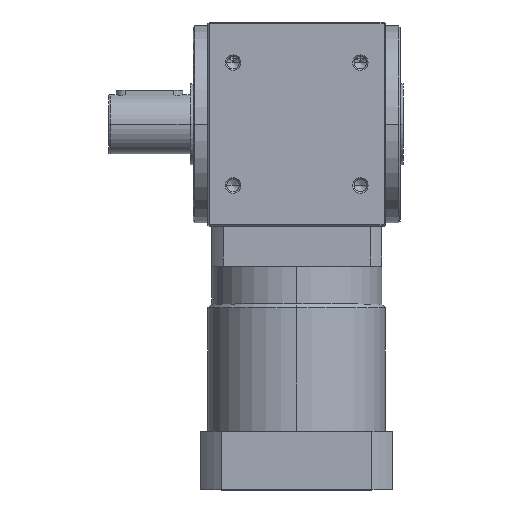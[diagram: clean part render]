
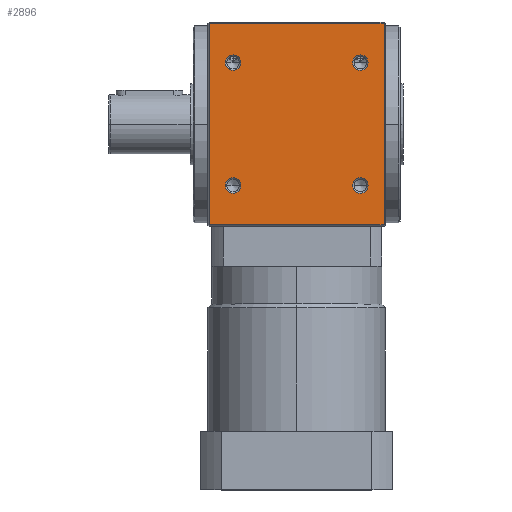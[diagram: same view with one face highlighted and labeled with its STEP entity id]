
A CAD part, top view. The second image highlights one B-rep face of the part: STEP entity #2896.
In plain terms, the highlighted planar face has unit normal (0, 0, 1).
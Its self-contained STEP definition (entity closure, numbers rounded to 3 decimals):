
#83 = ORIENTED_EDGE ( 'NONE', *, *, #7035, .F. ) ;
#206 = CARTESIAN_POINT ( 'NONE',  ( 59., 68., 69. ) ) ;
#209 = ORIENTED_EDGE ( 'NONE', *, *, #4239, .F. ) ;
#273 = VERTEX_POINT ( 'NONE', #206 ) ;
#361 = AXIS2_PLACEMENT_3D ( 'NONE', #3452, #8529, #4149 ) ;
#483 = VECTOR ( 'NONE', #2120, 1000. ) ;
#659 = CARTESIAN_POINT ( 'NONE',  ( -43., 41.5, 69. ) ) ;
#855 = EDGE_LOOP ( 'NONE', ( #8670, #3934 ) ) ;
#928 = DIRECTION ( 'NONE',  ( 0., 0., 1. ) ) ;
#942 = EDGE_LOOP ( 'NONE', ( #4427, #4838 ) ) ;
#1214 = AXIS2_PLACEMENT_3D ( 'NONE', #8866, #4498, #9610 ) ;
#1263 = DIRECTION ( 'NONE',  ( 0., 0., -1. ) ) ;
#1413 = EDGE_LOOP ( 'NONE', ( #4217, #1695 ) ) ;
#1444 = FACE_BOUND ( 'NONE', #6286, .T. ) ;
#1483 = DIRECTION ( 'NONE',  ( 1., 0., 0. ) ) ;
#1494 = AXIS2_PLACEMENT_3D ( 'NONE', #6591, #2283, #7350 ) ;
#1517 = DIRECTION ( 'NONE',  ( 0., -1., 0. ) ) ;
#1597 = VERTEX_POINT ( 'NONE', #2827 ) ;
#1632 = AXIS2_PLACEMENT_3D ( 'NONE', #659, #5826, #1483 ) ;
#1680 = AXIS2_PLACEMENT_3D ( 'NONE', #7321, #3010, #8072 ) ;
#1695 = ORIENTED_EDGE ( 'NONE', *, *, #7542, .F. ) ;
#1714 = CARTESIAN_POINT ( 'NONE',  ( -48.25, -41.5, 69. ) ) ;
#1810 = CIRCLE ( 'NONE', #2414, 5.25 ) ;
#2093 = CARTESIAN_POINT ( 'NONE',  ( -59., 69., 69. ) ) ;
#2120 = DIRECTION ( 'NONE',  ( 0., 1., 0. ) ) ;
#2267 = AXIS2_PLACEMENT_3D ( 'NONE', #6880, #2584, #7641 ) ;
#2283 = DIRECTION ( 'NONE',  ( 0., 0., 1. ) ) ;
#2369 = VERTEX_POINT ( 'NONE', #8748 ) ;
#2378 = ORIENTED_EDGE ( 'NONE', *, *, #4171, .F. ) ;
#2414 = AXIS2_PLACEMENT_3D ( 'NONE', #3828, #8914, #4546 ) ;
#2449 = CIRCLE ( 'NONE', #1680, 5.25 ) ;
#2584 = DIRECTION ( 'NONE',  ( 0., 0., 1. ) ) ;
#2689 = LINE ( 'NONE', #8043, #8260 ) ;
#2827 = CARTESIAN_POINT ( 'NONE',  ( -37.75, 41.5, 69. ) ) ;
#2896 = ADVANCED_FACE ( 'NONE', ( #5326, #1444, #7028, #5094, #3205 ), #6337, .F. ) ;
#3010 = DIRECTION ( 'NONE',  ( 0., 0., 1. ) ) ;
#3205 = FACE_OUTER_BOUND ( 'NONE', #4340, .T. ) ;
#3452 = CARTESIAN_POINT ( 'NONE',  ( 43., -41.5, 69. ) ) ;
#3595 = ORIENTED_EDGE ( 'NONE', *, *, #5201, .T. ) ;
#3650 = VERTEX_POINT ( 'NONE', #8994 ) ;
#3693 = DIRECTION ( 'NONE',  ( 1., 0., 0. ) ) ;
#3828 = CARTESIAN_POINT ( 'NONE',  ( 43., 41.5, 69. ) ) ;
#3934 = ORIENTED_EDGE ( 'NONE', *, *, #6176, .F. ) ;
#3947 = CARTESIAN_POINT ( 'NONE',  ( -59., 68., 69. ) ) ;
#3996 = CIRCLE ( 'NONE', #2267, 5.25 ) ;
#4083 = CIRCLE ( 'NONE', #361, 5.25 ) ;
#4149 = DIRECTION ( 'NONE',  ( 1., 0., 0. ) ) ;
#4171 = EDGE_CURVE ( 'NONE', #6732, #8429, #8145, .T. ) ;
#4217 = ORIENTED_EDGE ( 'NONE', *, *, #4357, .F. ) ;
#4239 = EDGE_CURVE ( 'NONE', #8429, #273, #2689, .T. ) ;
#4242 = LINE ( 'NONE', #5176, #8135 ) ;
#4253 = EDGE_CURVE ( 'NONE', #1597, #9502, #6261, .T. ) ;
#4267 = EDGE_CURVE ( 'NONE', #4667, #8280, #2449, .T. ) ;
#4311 = EDGE_CURVE ( 'NONE', #2369, #3650, #8019, .T. ) ;
#4340 = EDGE_LOOP ( 'NONE', ( #209, #2378, #3595, #7042 ) ) ;
#4357 = EDGE_CURVE ( 'NONE', #8222, #4528, #7079, .T. ) ;
#4400 = EDGE_CURVE ( 'NONE', #273, #8916, #4242, .T. ) ;
#4427 = ORIENTED_EDGE ( 'NONE', *, *, #4267, .F. ) ;
#4498 = DIRECTION ( 'NONE',  ( 0., 0., 1. ) ) ;
#4528 = VERTEX_POINT ( 'NONE', #1714 ) ;
#4546 = DIRECTION ( 'NONE',  ( 1., 0., 0. ) ) ;
#4667 = VERTEX_POINT ( 'NONE', #6847 ) ;
#4838 = ORIENTED_EDGE ( 'NONE', *, *, #6716, .F. ) ;
#5094 = FACE_BOUND ( 'NONE', #855, .T. ) ;
#5176 = CARTESIAN_POINT ( 'NONE',  ( 59., 69., 69. ) ) ;
#5201 = EDGE_CURVE ( 'NONE', #6732, #8916, #5342, .T. ) ;
#5231 = CARTESIAN_POINT ( 'NONE',  ( 60., -68., 69. ) ) ;
#5246 = CARTESIAN_POINT ( 'NONE',  ( -48.25, 41.5, 69. ) ) ;
#5295 = CIRCLE ( 'NONE', #8801, 5.25 ) ;
#5326 = FACE_BOUND ( 'NONE', #1413, .T. ) ;
#5342 = LINE ( 'NONE', #5231, #7288 ) ;
#5369 = CARTESIAN_POINT ( 'NONE',  ( -43., -41.5, 69. ) ) ;
#5646 = CARTESIAN_POINT ( 'NONE',  ( 60., 69., 69. ) ) ;
#5826 = DIRECTION ( 'NONE',  ( 0., 0., 1. ) ) ;
#5845 = ORIENTED_EDGE ( 'NONE', *, *, #4311, .F. ) ;
#5972 = CARTESIAN_POINT ( 'NONE',  ( -37.75, -41.5, 69. ) ) ;
#6085 = DIRECTION ( 'NONE',  ( 1., 0., 0. ) ) ;
#6176 = EDGE_CURVE ( 'NONE', #9502, #1597, #3996, .T. ) ;
#6261 = CIRCLE ( 'NONE', #1632, 5.25 ) ;
#6286 = EDGE_LOOP ( 'NONE', ( #5845, #83 ) ) ;
#6337 = PLANE ( 'NONE',  #7752 ) ;
#6371 = DIRECTION ( 'NONE',  ( 0., 1., 0. ) ) ;
#6591 = CARTESIAN_POINT ( 'NONE',  ( 43., -41.5, 69. ) ) ;
#6716 = EDGE_CURVE ( 'NONE', #8280, #4667, #1810, .T. ) ;
#6732 = VERTEX_POINT ( 'NONE', #8884 ) ;
#6847 = CARTESIAN_POINT ( 'NONE',  ( 48.25, 41.5, 69. ) ) ;
#6880 = CARTESIAN_POINT ( 'NONE',  ( -43., 41.5, 69. ) ) ;
#6956 = CARTESIAN_POINT ( 'NONE',  ( 59., -68., 69. ) ) ;
#7028 = FACE_BOUND ( 'NONE', #942, .T. ) ;
#7035 = EDGE_CURVE ( 'NONE', #3650, #2369, #4083, .T. ) ;
#7042 = ORIENTED_EDGE ( 'NONE', *, *, #4400, .F. ) ;
#7079 = CIRCLE ( 'NONE', #1214, 5.25 ) ;
#7288 = VECTOR ( 'NONE', #9625, 1000. ) ;
#7321 = CARTESIAN_POINT ( 'NONE',  ( 43., 41.5, 69. ) ) ;
#7350 = DIRECTION ( 'NONE',  ( 1., 0., 0. ) ) ;
#7542 = EDGE_CURVE ( 'NONE', #4528, #8222, #5295, .T. ) ;
#7641 = DIRECTION ( 'NONE',  ( 1., 0., 0. ) ) ;
#7752 = AXIS2_PLACEMENT_3D ( 'NONE', #5646, #1263, #6371 ) ;
#8019 = CIRCLE ( 'NONE', #1494, 5.25 ) ;
#8043 = CARTESIAN_POINT ( 'NONE',  ( 60., 68., 69. ) ) ;
#8072 = DIRECTION ( 'NONE',  ( 1., 0., 0. ) ) ;
#8135 = VECTOR ( 'NONE', #1517, 1000. ) ;
#8145 = LINE ( 'NONE', #2093, #483 ) ;
#8222 = VERTEX_POINT ( 'NONE', #5972 ) ;
#8224 = CARTESIAN_POINT ( 'NONE',  ( 37.75, 41.5, 69. ) ) ;
#8260 = VECTOR ( 'NONE', #3693, 1000. ) ;
#8280 = VERTEX_POINT ( 'NONE', #8224 ) ;
#8429 = VERTEX_POINT ( 'NONE', #3947 ) ;
#8529 = DIRECTION ( 'NONE',  ( 0., 0., 1. ) ) ;
#8670 = ORIENTED_EDGE ( 'NONE', *, *, #4253, .F. ) ;
#8748 = CARTESIAN_POINT ( 'NONE',  ( 48.25, -41.5, 69. ) ) ;
#8801 = AXIS2_PLACEMENT_3D ( 'NONE', #5369, #928, #6085 ) ;
#8866 = CARTESIAN_POINT ( 'NONE',  ( -43., -41.5, 69. ) ) ;
#8884 = CARTESIAN_POINT ( 'NONE',  ( -59., -68., 69. ) ) ;
#8914 = DIRECTION ( 'NONE',  ( 0., 0., 1. ) ) ;
#8916 = VERTEX_POINT ( 'NONE', #6956 ) ;
#8994 = CARTESIAN_POINT ( 'NONE',  ( 37.75, -41.5, 69. ) ) ;
#9502 = VERTEX_POINT ( 'NONE', #5246 ) ;
#9610 = DIRECTION ( 'NONE',  ( 1., 0., 0. ) ) ;
#9625 = DIRECTION ( 'NONE',  ( 1., 0., 0. ) ) ;
